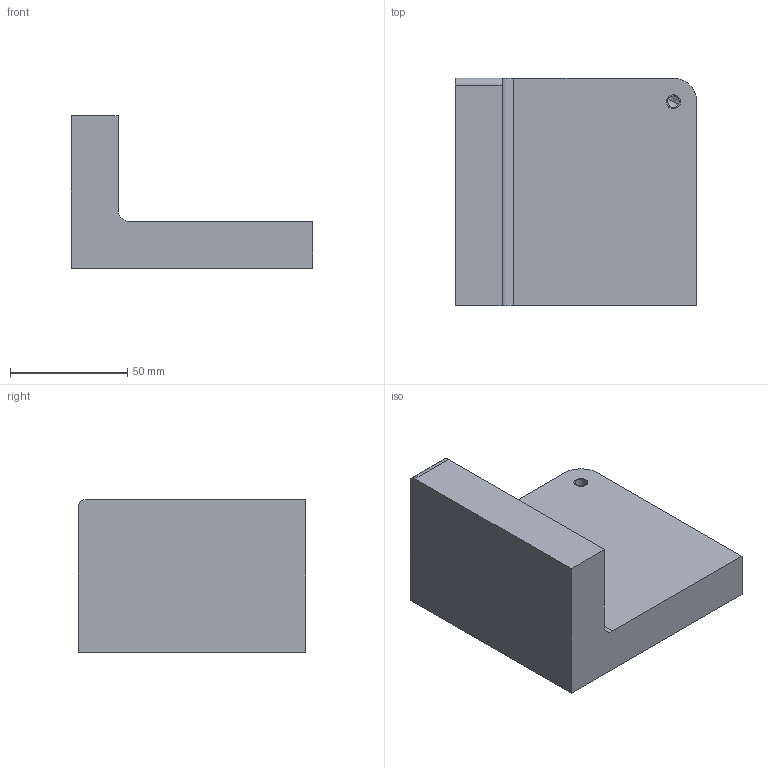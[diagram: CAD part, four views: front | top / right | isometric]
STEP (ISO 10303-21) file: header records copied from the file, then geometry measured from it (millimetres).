
FILE_DESCRIPTION(('CATIA V5 STEP Exchange'),'2;1');
FILE_NAME('C:\_Andres\UNIVERSIDAD\IQS\ASIGNATURAS\DAO\EXF\EXF-16172c\2inicio\Beteta_Pozo_Ej01_v3.stp','2017-03-05T15:11:03+00:00',('none'),('none'),'CATIA Version 5-6 Release 2014 SP1 HF18','CATIA V5 STEP AP203','none');
FILE_SCHEMA(('CONFIG_CONTROL_DESIGN'));
Length unit declared in the file: millimetre
Products named in the file (1): Beteta_Pozo_Ej01_v3
Bounding box: 103 x 97 x 65 mm (x, y, z)
Volume: 286859.8 mm3; surface area: 38632.5 mm2
Topology: 1 solids, 2 shells, 17 faces, 43 edges, 27 vertices
Faces by surface type: plane 8, cylinder 7, cone 2
Entity records: 513 total; most frequent: CARTESIAN_POINT 83, ORIENTED_EDGE 78, DIRECTION 69, EDGE_CURVE 41, AXIS2_PLACEMENT_3D 29, VECTOR 27, LINE 27, VERTEX_POINT 27
